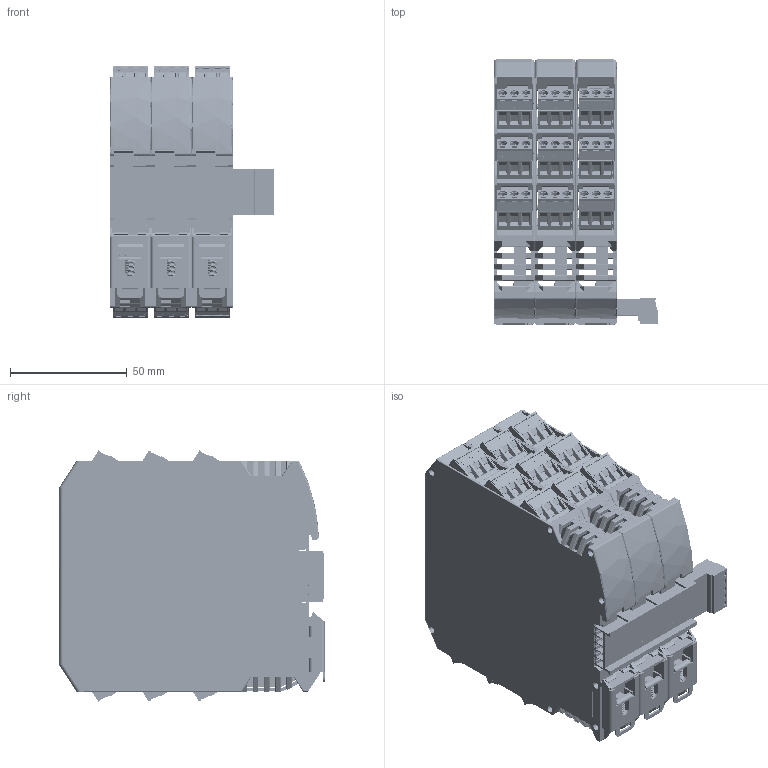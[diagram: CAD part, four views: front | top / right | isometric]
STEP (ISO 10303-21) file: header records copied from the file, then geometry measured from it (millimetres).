
FILE_DESCRIPTION(('STEP AP203'), '1');
FILE_NAME('Êîíòðîëëåð îòîïëåíèÿ è ÃÂÑ äëÿ ÈÒÏ ñ ìîäóëÿìè_ ÊÎÍÒÓÐ-À11 KIT (ëàéò)', '2025-02-12T12:03:33', (''), ('ÝËÕÀÐÒ'), 'ASCON STEP Converter 1.6', 'ASCON Math Kernel', '');
FILE_SCHEMA(('CONFIG_CONTROL_DESIGN'));
Length unit declared in the file: millimetre
Products named in the file (3): ﾊﾎﾍﾒﾓﾐ-ﾀ11 KIT
Assembly tree (3 placements, depth 2):
  ﾊﾎﾍﾒﾓﾐ-ﾀ11 KIT
    (unnamed)
    (unnamed)  x2
Bounding box: 70.6 x 113.65 x 107.7 mm (x, y, z)
Volume: 202876.9 mm3; surface area: 325384.3 mm2
Topology: 49 solids, 69 shells, 25585 faces, 69584 edges, 44647 vertices
Faces by surface type: plane 17573, cylinder 4455, extrusion 1479, bspline 837, torus 605, sphere 434, cone 202
Full cylindrical faces by diameter (mm): 0.5 x1, 0.6 x2, 1 x4, 1.35 x6, 1.4 x18, 1.5 x60, 1.6 x30, 1.9 x5, 2.2 x36, 2.5 x54, 2.8 x51, 2.87 x5, 2.9 x48, 2.95 x10, 3 x48, 3.3 x51, 3.85 x102
Entity records: 696822 total; most frequent: CARTESIAN_POINT 143360, ORIENTED_EDGE 90602, DIRECTION 78053, EDGE_CURVE 45301, VECTOR 34863, LINE 33878, VERTEX_POINT 29582, AXIS2_PLACEMENT_3D 21595
